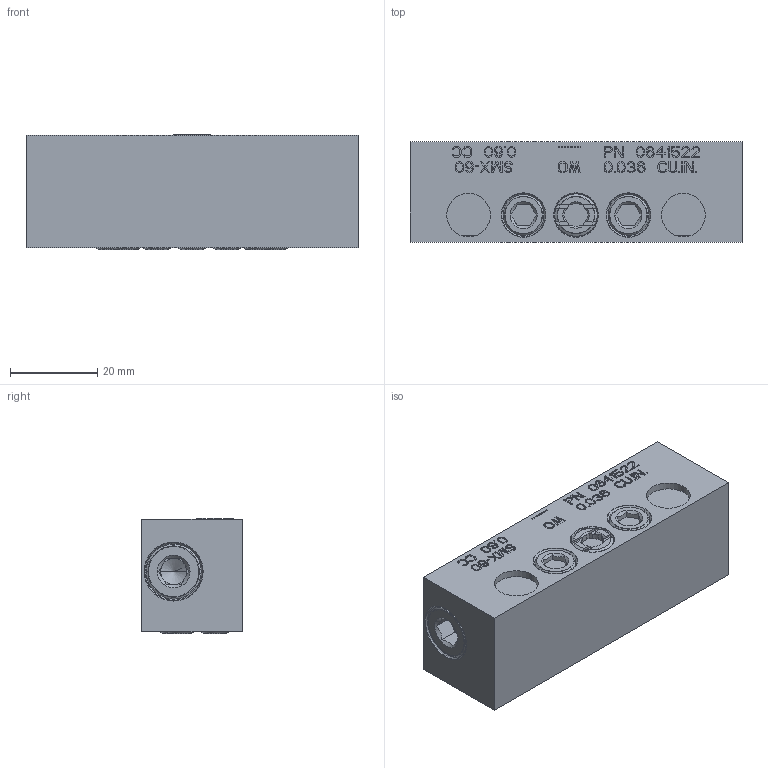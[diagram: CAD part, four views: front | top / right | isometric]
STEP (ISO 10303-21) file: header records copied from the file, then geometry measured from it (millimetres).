
FILE_DESCRIPTION((''),'2;1');
FILE_NAME('0641522_SMX_60','2023-07-21T09:54:04',('pietro.masciave'),(''),'CREO PARAMETRIC BY PTC INC, 2022281','CREO PARAMETRIC BY PTC INC, 2022281','');
FILE_SCHEMA(('CONFIG_CONTROL_DESIGN'));
Length unit declared in the file: millimetre
Products named in the file (1): 0641522_SMX_60
Bounding box: 76 x 23 x 26.33 mm (x, y, z)
Volume: 43966.9 mm3; surface area: 12630.1 mm2
Topology: 1 solids, 14 shells, 1401 faces, 3887 edges, 2583 vertices
Faces by surface type: plane 1227, cylinder 108, cone 44, torus 22
Entity records: 45133 total; most frequent: CARTESIAN_POINT 8999, ORIENTED_EDGE 7726, DIRECTION 6978, EDGE_CURVE 3883, VECTOR 3454, LINE 3454, VERTEX_POINT 2583, AXIS2_PLACEMENT_3D 1762
